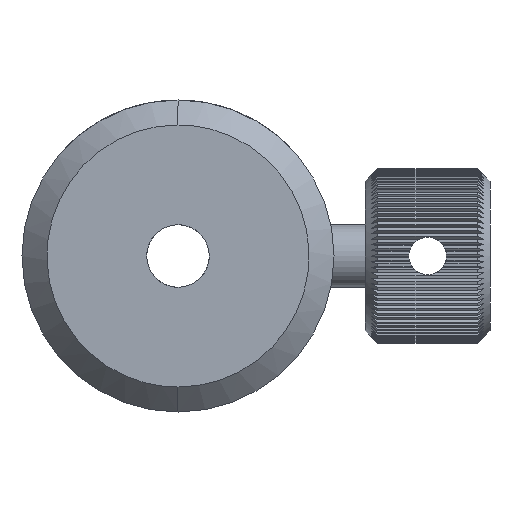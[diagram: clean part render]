
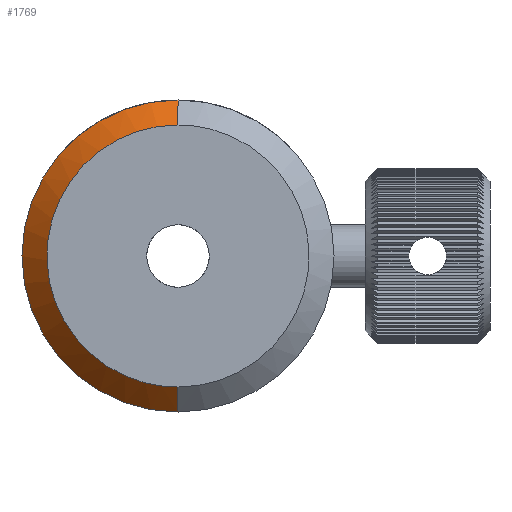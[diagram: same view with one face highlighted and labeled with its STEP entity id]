
A CAD part, front view. The second image highlights one B-rep face of the part: STEP entity #1769.
In plain terms, the highlighted conical face has half-angle 45 degrees and reference radius 10.5 mm.
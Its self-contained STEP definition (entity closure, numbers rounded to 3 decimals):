
#233 = DIRECTION ( 'NONE',  ( 0., 1., 0. ) ) ;
#315 = CARTESIAN_POINT ( 'NONE',  ( -8.024, -24.965, 39.834 ) ) ;
#1335 = CARTESIAN_POINT ( 'NONE',  ( -15.265, -24.965, 53.379 ) ) ;
#1372 = EDGE_LOOP ( 'NONE', ( #11639, #10912, #8426, #6569 ) ) ;
#1427 = CARTESIAN_POINT ( 'NONE',  ( -5.99, -24.965, 39.498 ) ) ;
#1460 = DIRECTION ( 'NONE',  ( 0., 0., -1. ) ) ;
#1510 = CARTESIAN_POINT ( 'NONE',  ( -5.3, -22.965, 37.498 ) ) ;
#1769 = ADVANCED_FACE ( 'NONE', ( #4467 ), #10228, .T. ) ;
#1829 = CARTESIAN_POINT ( 'NONE',  ( -5.3, -24.965, 60.498 ) ) ;
#2156 = AXIS2_PLACEMENT_3D ( 'NONE', #11302, #233, #9886 ) ;
#2359 = CARTESIAN_POINT ( 'NONE',  ( -5.3, -24.965, 39.498 ) ) ;
#2451 = CARTESIAN_POINT ( 'NONE',  ( -15.264, -24.965, 46.616 ) ) ;
#2833 = EDGE_CURVE ( 'NONE', #13600, #11379, #11103, .T. ) ;
#3060 = CARTESIAN_POINT ( 'NONE',  ( -5.3, -24.965, 60.498 ) ) ;
#3085 = CARTESIAN_POINT ( 'NONE',  ( -5.3, -22.965, 62.498 ) ) ;
#3199 = CARTESIAN_POINT ( 'NONE',  ( -5.99, -24.965, 60.498 ) ) ;
#3343 = CARTESIAN_POINT ( 'NONE',  ( -5.3, -24.965, 39.498 ) ) ;
#3429 = CARTESIAN_POINT ( 'NONE',  ( -9.955, -24.965, 40.561 ) ) ;
#3464 = DIRECTION ( 'NONE',  ( 0., -1., 0. ) ) ;
#3480 = CARTESIAN_POINT ( 'NONE',  ( -15.464, -24.965, 47.273 ) ) ;
#3530 = CARTESIAN_POINT ( 'NONE',  ( -13.648, -24.965, 43.591 ) ) ;
#3570 = CARTESIAN_POINT ( 'NONE',  ( -11.707, -24.965, 41.65 ) ) ;
#4288 = CARTESIAN_POINT ( 'NONE',  ( -8.024, -24.965, 60.162 ) ) ;
#4335 = CARTESIAN_POINT ( 'NONE',  ( -11.707, -24.965, 58.345 ) ) ;
#4381 = DIRECTION ( 'NONE',  ( 0., 0.707, -0.707 ) ) ;
#4402 = LINE ( 'NONE', #3343, #4898 ) ;
#4467 = FACE_OUTER_BOUND ( 'NONE', #1372, .T. ) ;
#4565 = CARTESIAN_POINT ( 'NONE',  ( -12.237, -24.965, 42.086 ) ) ;
#4898 = VECTOR ( 'NONE', #4381, 1000. ) ;
#5035 = B_SPLINE_CURVE_WITH_KNOTS ( 'NONE', 3,
 ( #13070, #3199, #11850, #4288, #5383, #8633, #10824, #4335, #11902, #5430, #6509, #12176, #6693, #1335, #5701, #8910, #11007, #12087, #8870, #3480, #2451, #13204, #10013, #3530, #7778, #4565, #3570, #6642, #3429, #13249, #315, #7876, #1427, #2359 ),
 .UNSPECIFIED., .F., .F.,
 ( 4, 2, 2, 2, 2, 2, 2, 2, 2, 2, 2, 2, 2, 2, 2, 2, 4 ),
 ( 0., 0.063, 0.125, 0.188, 0.25, 0.313, 0.375, 0.438, 0.5, 0.563, 0.625, 0.688, 0.75, 0.813, 0.875, 0.938, 1. ),
 .UNSPECIFIED. ) ;
#5383 = CARTESIAN_POINT ( 'NONE',  ( -8.682, -24.965, 59.962 ) ) ;
#5430 = CARTESIAN_POINT ( 'NONE',  ( -13.212, -24.965, 56.935 ) ) ;
#5701 = CARTESIAN_POINT ( 'NONE',  ( -15.464, -24.965, 52.722 ) ) ;
#6280 = DIRECTION ( 'NONE',  ( 0., 0.707, 0.707 ) ) ;
#6509 = CARTESIAN_POINT ( 'NONE',  ( -13.648, -24.965, 56.404 ) ) ;
#6569 = ORIENTED_EDGE ( 'NONE', *, *, #2833, .T. ) ;
#6642 = CARTESIAN_POINT ( 'NONE',  ( -10.561, -24.965, 40.884 ) ) ;
#6693 = CARTESIAN_POINT ( 'NONE',  ( -14.737, -24.965, 54.652 ) ) ;
#7778 = CARTESIAN_POINT ( 'NONE',  ( -13.212, -24.965, 43.06 ) ) ;
#7876 = CARTESIAN_POINT ( 'NONE',  ( -6.673, -24.965, 39.565 ) ) ;
#8022 = AXIS2_PLACEMENT_3D ( 'NONE', #13288, #3464, #1460 ) ;
#8394 = EDGE_CURVE ( 'NONE', #9527, #11379, #4402, .T. ) ;
#8426 = ORIENTED_EDGE ( 'NONE', *, *, #9037, .T. ) ;
#8633 = CARTESIAN_POINT ( 'NONE',  ( -9.955, -24.965, 59.435 ) ) ;
#8870 = CARTESIAN_POINT ( 'NONE',  ( -15.733, -24.965, 48.625 ) ) ;
#8910 = CARTESIAN_POINT ( 'NONE',  ( -15.733, -24.965, 51.37 ) ) ;
#9037 = EDGE_CURVE ( 'NONE', #11509, #13600, #10153, .T. ) ;
#9527 = VERTEX_POINT ( 'NONE', #9701 ) ;
#9701 = CARTESIAN_POINT ( 'NONE',  ( -5.3, -24.965, 39.498 ) ) ;
#9886 = DIRECTION ( 'NONE',  ( 0., 0., 1. ) ) ;
#10013 = CARTESIAN_POINT ( 'NONE',  ( -14.413, -24.965, 44.737 ) ) ;
#10110 = EDGE_CURVE ( 'NONE', #11509, #9527, #5035, .T. ) ;
#10153 = LINE ( 'NONE', #3060, #11326 ) ;
#10228 = CONICAL_SURFACE ( 'NONE', #2156, 10.5, 0.785 ) ;
#10824 = CARTESIAN_POINT ( 'NONE',  ( -10.561, -24.965, 59.111 ) ) ;
#10912 = ORIENTED_EDGE ( 'NONE', *, *, #10110, .F. ) ;
#11007 = CARTESIAN_POINT ( 'NONE',  ( -15.8, -24.965, 50.687 ) ) ;
#11103 = CIRCLE ( 'NONE', #8022, 12.5 ) ;
#11302 = CARTESIAN_POINT ( 'NONE',  ( -5.3, -24.965, 49.998 ) ) ;
#11326 = VECTOR ( 'NONE', #6280, 1000. ) ;
#11379 = VERTEX_POINT ( 'NONE', #1510 ) ;
#11509 = VERTEX_POINT ( 'NONE', #1829 ) ;
#11639 = ORIENTED_EDGE ( 'NONE', *, *, #8394, .F. ) ;
#11850 = CARTESIAN_POINT ( 'NONE',  ( -6.673, -24.965, 60.43 ) ) ;
#11902 = CARTESIAN_POINT ( 'NONE',  ( -12.237, -24.965, 57.91 ) ) ;
#12087 = CARTESIAN_POINT ( 'NONE',  ( -15.8, -24.965, 49.309 ) ) ;
#12176 = CARTESIAN_POINT ( 'NONE',  ( -14.413, -24.965, 55.258 ) ) ;
#13070 = CARTESIAN_POINT ( 'NONE',  ( -5.3, -24.965, 60.498 ) ) ;
#13204 = CARTESIAN_POINT ( 'NONE',  ( -14.737, -24.965, 45.343 ) ) ;
#13249 = CARTESIAN_POINT ( 'NONE',  ( -8.682, -24.965, 40.033 ) ) ;
#13288 = CARTESIAN_POINT ( 'NONE',  ( -5.3, -22.965, 49.998 ) ) ;
#13600 = VERTEX_POINT ( 'NONE', #3085 ) ;
